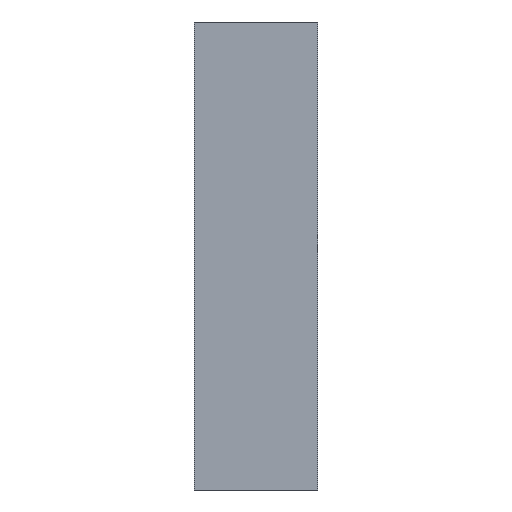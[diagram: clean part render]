
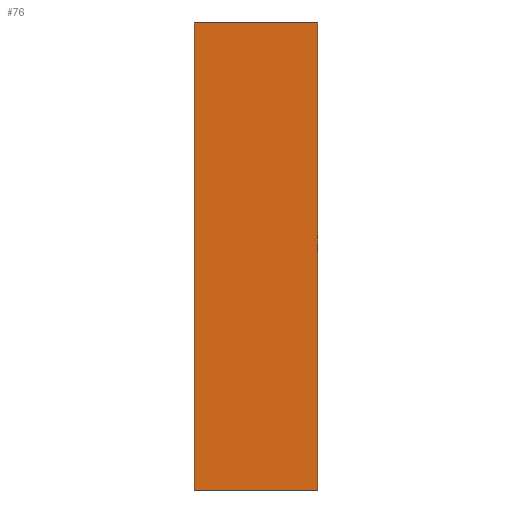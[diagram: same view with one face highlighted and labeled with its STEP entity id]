
A CAD part, left-side view. The second image highlights one B-rep face of the part: STEP entity #76.
In plain terms, the highlighted planar face has unit normal (-1, 0, 0).
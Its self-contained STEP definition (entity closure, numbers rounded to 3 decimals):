
#76=ADVANCED_FACE('',(#126),#128,.T.);
#126=FACE_BOUND('',#127,.T.);
#127=EDGE_LOOP('',(#162,#163,#164,#165));
#128=PLANE('',#129);
#129=AXIS2_PLACEMENT_3D('',#130,#131,#132);
#130=CARTESIAN_POINT('',(0.,3.,0.));
#131=DIRECTION('',(-1.,0.,0.));
#132=DIRECTION('',(0.,-1.,0.));
#162=ORIENTED_EDGE('',*,*,#186,.T.);
#163=ORIENTED_EDGE('',*,*,#181,.T.);
#164=ORIENTED_EDGE('',*,*,#187,.T.);
#165=ORIENTED_EDGE('',*,*,#183,.F.);
#181=EDGE_CURVE('',#190,#195,#197,.T.);
#183=EDGE_CURVE('',#199,#201,#202,.T.);
#186=EDGE_CURVE('',#199,#190,#206,.F.);
#187=EDGE_CURVE('',#195,#201,#207,.T.);
#190=VERTEX_POINT('',#210);
#195=VERTEX_POINT('',#219);
#197=LINE('',#223,#224);
#199=VERTEX_POINT('',#227);
#201=VERTEX_POINT('',#231);
#202=LINE('',#232,#233);
#206=LINE('',#242,#243);
#207=LINE('',#245,#246);
#210=CARTESIAN_POINT('',(0.,1.587,0.));
#219=CARTESIAN_POINT('',(0.,0.,0.));
#223=CARTESIAN_POINT('',(0.,1.587,0.));
#224=VECTOR('',#225,1.);
#225=DIRECTION('',(0.,-1.,0.));
#227=CARTESIAN_POINT('',(0.,1.587,6.));
#231=CARTESIAN_POINT('',(0.,0.,6.));
#232=CARTESIAN_POINT('',(0.,1.587,6.));
#233=VECTOR('',#234,1.);
#234=DIRECTION('',(0.,-1.,0.));
#242=CARTESIAN_POINT('',(0.,1.587,0.));
#243=VECTOR('',#244,1.);
#244=DIRECTION('',(0.,0.,1.));
#245=CARTESIAN_POINT('',(0.,0.,0.));
#246=VECTOR('',#247,1.);
#247=DIRECTION('',(0.,0.,1.));
